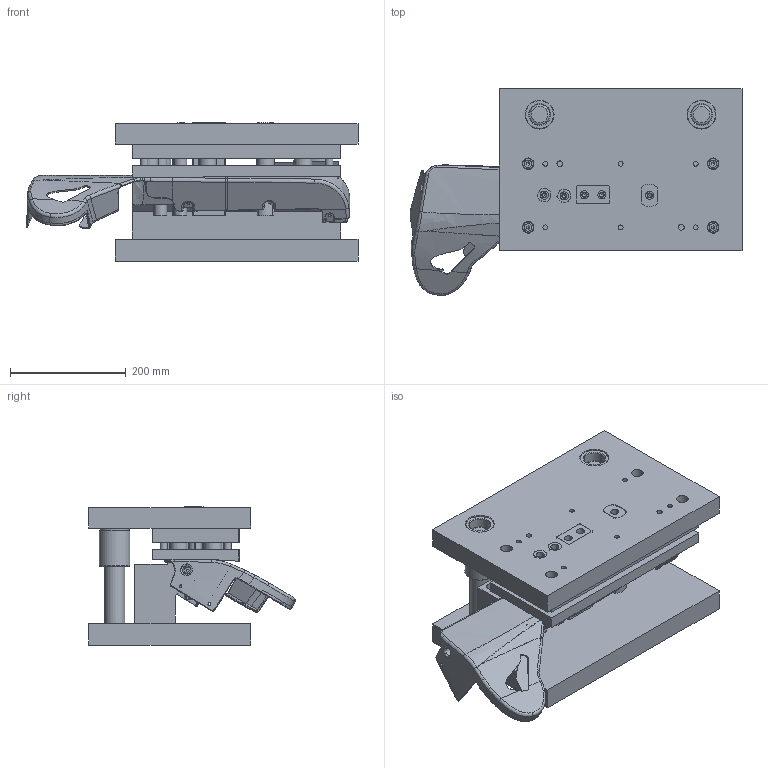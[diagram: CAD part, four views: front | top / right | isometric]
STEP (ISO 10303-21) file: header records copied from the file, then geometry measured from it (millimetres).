
FILE_DESCRIPTION(/* description */ (''),/* implementation_level */ '2;1');
FILE_NAME(/* name */ 'SQX3000-6906600-CM1-PI-20220712_1__x_t.stp',/* time_stamp */ '2022-09-14T11:51:29+08:00',/* author */ (''),/* organization */ (''),/* preprocessor_version */ 'ST-DEVELOPER v14',/* originating_system */ 'SIEMENS PLM Software NX 8.0',/* authorisation */ '');
FILE_SCHEMA (('AP203_CONFIGURATION_CONTROLLED_3D_DESIGN_OF_MECHANICAL_PARTS_AND_ASSEMBLIES_MIM_LF { 1 0 10303 403 2 1 2}'));
Products named in the file (1): Admi1598F2766l9u
Bounding box: 574.15 x 357.46 x 239.31 mm (x, y, z)
Volume: 14614224 mm3; surface area: 1696324.8 mm2
Topology: 30 solids, 43 shells, 1634 faces, 5856 edges, 4326 vertices
Faces by surface type: bspline 690, plane 492, cylinder 346, extrusion 71, cone 25, torus 7, sphere 3
Full cylindrical faces by diameter (mm): 5 x2, 6.8 x9, 8 x4, 8.5 x10, 9 x5, 10 x4, 10.5 x6, 11 x6, 12 x4, 13 x22, 14 x5, 15.003 x8, 18 x10, 20 x10, 30 x8, 31 x16, 34 x2, 35 x8, 36 x2, 50 x4, 53 x2
Entity records: 166005 total; most frequent: CARTESIAN_POINT 126254, ORIENTED_EDGE 10861, EDGE_CURVE 5544, B_SPLINE_CURVE_WITH_KNOTS 4341, VERTEX_POINT 4207, DIRECTION 3681, EDGE_LOOP 2057, ADVANCED_FACE 1634
